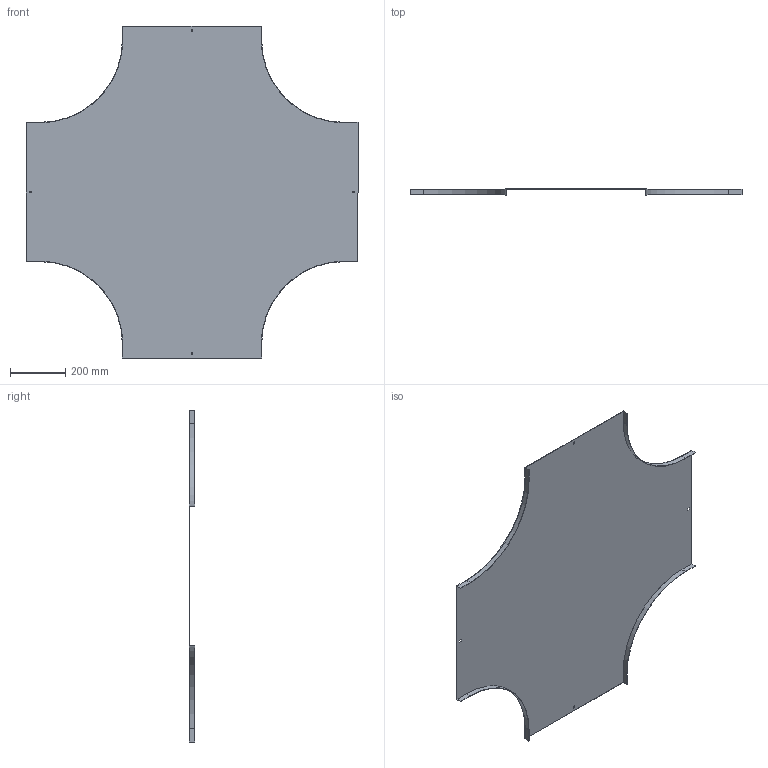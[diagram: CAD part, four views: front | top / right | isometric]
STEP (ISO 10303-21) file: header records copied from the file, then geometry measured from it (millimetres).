
FILE_DESCRIPTION (( 'STEP AP214' ), '1' );
FILE_NAME ('B2_17N3R500.step', '2025-02-21T12:08:50', ( '' ), ( '' ), 'SwSTEP 2.0', 'SolidWorks 2023', '' );
FILE_SCHEMA (( 'AUTOMOTIVE_DESIGN' ));
Length unit declared in the file: millimetre
Products named in the file (1): B2_17N3R500
Bounding box: 1200 x 20 x 1200 mm (x, y, z)
Volume: 1608941.3 mm3; surface area: 2152094.3 mm2
Topology: 1 solids, 1 shells, 50 faces, 144 edges, 96 vertices
Faces by surface type: plane 42, cylinder 8
Entity records: 1663 total; most frequent: CARTESIAN_POINT 291, ORIENTED_EDGE 288, DIRECTION 262, EDGE_CURVE 144, LINE 128, VECTOR 128, VERTEX_POINT 96, AXIS2_PLACEMENT_3D 67
